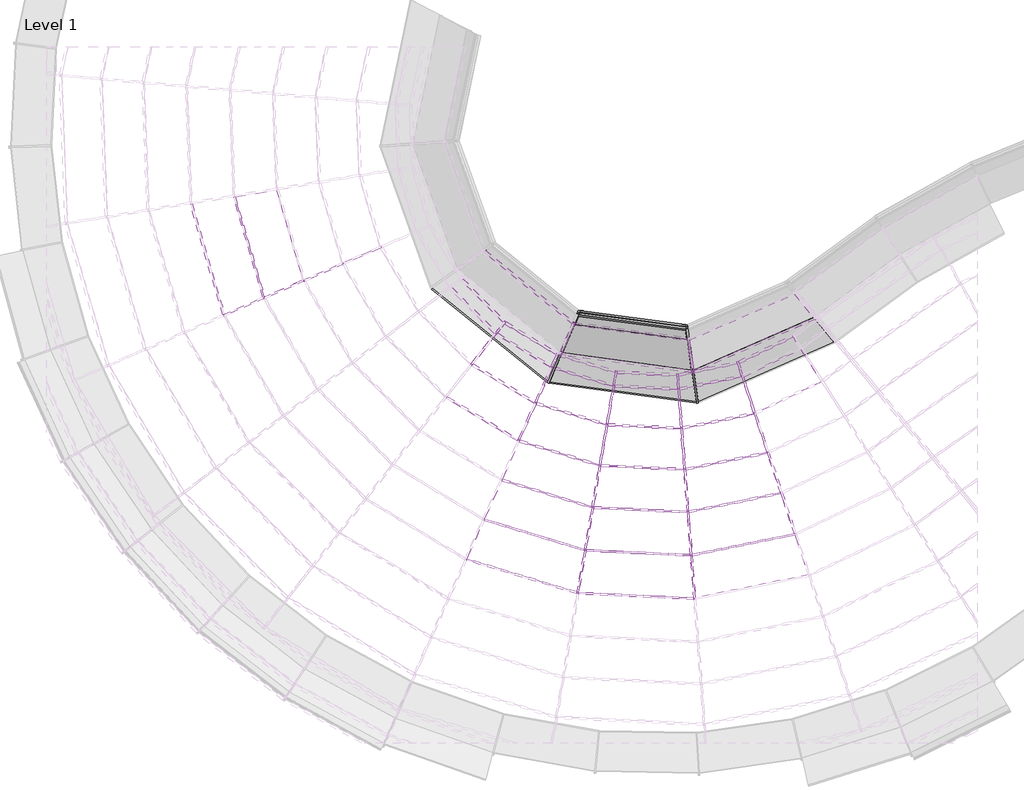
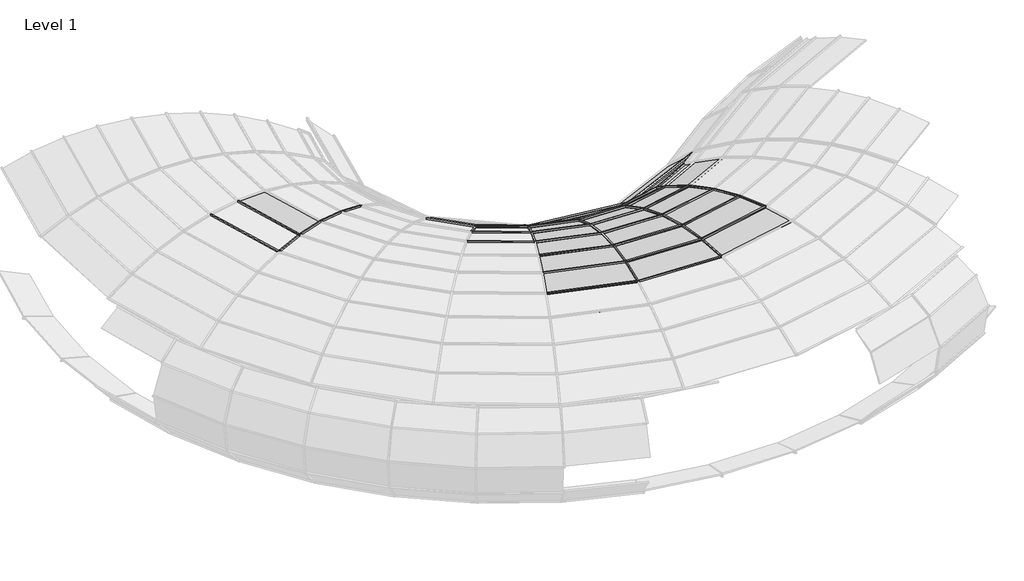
# One storey, part 5 of 23: 75 members, 29 plates.
"""IFC4 building model written with IfcOpenShell, lengths in millimetres."""

from ifc_helpers import new_model, si_unit, origin, place, context, project, spatial, transform, mapped, element, save
from components import member_c876edb5, member_782630c7, member_398e5ff5, member_01d9c279, member_398607d0, member_5ccaa950, member_8174f0e4, member_18f2ae55, member_299080b6, member_cb0bb3a9, member_172ab1ab, member_54499f2f, member_c8b9029b, member_0cd36c09, member_d0a40a1c, member_ff9adfd2, member_8c9da58c, member_391bee44, member_01ebdf2a, member_d6b8231b, system_panel_glazed_7bf4cd1b, system_panel_glazed_9f229a92, system_panel_glazed_a07c5774, system_panel_glazed_4fd85c75, system_panel_glazed_1256fb3b, system_panel_glazed_de823024, system_panel_glazed_b0e446d2, system_panel_glazed_ac948568, system_panel_glazed_688557e5, system_panel_glazed_4c871569, system_panel_glazed_08c7efc5

model = new_model("IFC4")

# Units and contexts
model_context = context("Model", 3, world=origin())
ifc_project = project(units=[si_unit("LENGTHUNIT", "METRE", prefix="MILLI")], contexts=[model_context])

# Site, building, storey
site = spatial("IfcSite", under=ifc_project)
building = spatial("IfcBuilding", under=site)
storey = spatial("IfcBuildingStorey", under=building, Name="Level 1", Elevation=0.0)

# Members
placement = place(None, origin())
member_shape = member_c876edb5(model_context)
element("IfcMember", 1, ObjectType="Rectangular Mullion : 1\" Square", at=placement, inside=storey, context=model_context, shape_type="MappedRepresentation", body=[
    mapped(member_shape, transform((-11868.8961869, -5711.7892801, 2676.0506073), x_axis=(0.49702183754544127, 0.8247218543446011, -0.2698205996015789), y_axis=(0.1392722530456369, 0.23109823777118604, 0.9629106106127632), z_axis=(0.8564884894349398, -0.516166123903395, 0.0))),
])
element("IfcMember", 2, ObjectType="Rectangular Mullion : 1\" Square", at=placement, inside=storey, context=model_context, shape_type="MappedRepresentation", body=[
    mapped(member_shape, transform((-10739.6248828, -6057.9710584, 2676.0506073), x_axis=(0.2797938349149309, 0.921364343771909, -0.2698205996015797), y_axis=(0.07840202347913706, 0.2581787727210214, 0.9629106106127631), z_axis=(0.9568534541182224, -0.2905709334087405, 0.0))),
])
element("IfcMember", 3, ObjectType="Rectangular Mullion : 1\" Square", at=placement, inside=storey, context=model_context, shape_type="MappedRepresentation", body=[
    mapped(member_shape, transform((-9559.9542553, -6116.9007844, 2676.0506073), x_axis=(0.04550783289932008, 0.961834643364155, -0.2698205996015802), y_axis=(0.012751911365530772, 0.2695190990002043, 0.9629106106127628), z_axis=(0.9988825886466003, -0.0472607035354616, 0.0))),
])
element("IfcMember", 4, ObjectType="Rectangular Mullion : 1\" Square", at=placement, inside=storey, context=model_context, shape_type="MappedRepresentation", body=[
    mapped(member_shape, transform((-8401.8044769, -5884.9857297, 2676.0506073), x_axis=(-0.19155261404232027, 0.9436654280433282, -0.26982059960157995), y_axis=(-0.053675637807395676, 0.26442783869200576, 0.962910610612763), z_axis=(0.9800135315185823, 0.19893083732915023, 0.0))),
])
member_2_shape = member_782630c7(model_context)
element("IfcMember", 5, ObjectType="Rectangular Mullion : 1\" Square", at=placement, inside=storey, context=model_context, shape_type="MappedRepresentation", body=[
    mapped(member_2_shape, transform((-11634.8412772, -5185.6927273, 2475.91846), x_axis=(0.4770391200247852, 0.7915639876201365, -0.3819163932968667), y_axis=(0.19713230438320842, 0.32710699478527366, 0.9241968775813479), z_axis=(0.8564884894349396, -0.5161661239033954, 0.0))),
])
element("IfcMember", 6, ObjectType="Rectangular Mullion : 1\" Square", at=placement, inside=storey, context=model_context, shape_type="MappedRepresentation", body=[
    mapped(member_2_shape, transform((-10641.6113447, -5490.5623609, 2475.91846), x_axis=(0.2685447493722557, 0.8843209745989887, -0.3819163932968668), y_axis=(0.11097380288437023, 0.36543802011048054, 0.9241968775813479), z_axis=(0.9568534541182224, -0.29057093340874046, 0.0))),
])
element("IfcMember", 7, ObjectType="Rectangular Mullion : 1\" Square", at=placement, inside=storey, context=model_context, shape_type="MappedRepresentation", body=[
    mapped(member_2_shape, transform((-9603.9576132, -5542.7727602, 2475.91846), x_axis=(0.043678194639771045, 0.9231641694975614, -0.3819163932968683), y_axis=(0.01804963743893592, 0.38148963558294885, 0.9241968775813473), z_axis=(0.9988825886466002, -0.04726070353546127, 0.0))),
])
element("IfcMember", 8, ObjectType="Rectangular Mullion : 1\" Square", at=placement, inside=storey, context=model_context, shape_type="MappedRepresentation", body=[
    mapped(member_2_shape, transform((-8585.1420081, -5339.1408495, 2475.91846), x_axis=(-0.183851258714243, 0.9057254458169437, -0.38191639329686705), y_axis=(-0.07597494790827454, 0.37428323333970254, 0.9241968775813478), z_axis=(0.9800135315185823, 0.19893083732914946, 0.0))),
])
member_3_shape = member_398e5ff5(model_context)
element("IfcMember", 9, ObjectType="Rectangular Mullion : 1\" Square", at=placement, inside=storey, context=model_context, shape_type="MappedRepresentation", body=[
    mapped(member_3_shape, transform((-12184.5228123, -4215.9945381, 2208.6526723), x_axis=(0.61966641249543, 0.6140952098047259, -0.4887746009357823), y_axis=(0.34717296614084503, 0.3440516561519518, 0.8724101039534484), z_axis=(0.7039065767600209, -0.710292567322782, 0.0))),
])
element("IfcMember", 10, ObjectType="Rectangular Mullion : 1\" Square", at=placement, inside=storey, context=model_context, shape_type="MappedRepresentation", body=[
    mapped(member_3_shape, transform((-11412.1368379, -4685.1091764, 2208.6526723), x_axis=(0.4503085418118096, 0.7472092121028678, -0.48877460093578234), y_axis=(0.2522888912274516, 0.4186298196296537, 0.8724101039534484), z_axis=(0.8564884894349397, -0.5161661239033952, 0.0))),
])
element("IfcMember", 11, ObjectType="Rectangular Mullion : 1\" Square", at=placement, inside=storey, context=model_context, shape_type="MappedRepresentation", body=[
    mapped(member_3_shape, transform((-10548.3509638, -4950.6700938, 2208.6526723), x_axis=(0.25349701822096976, 0.8347686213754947, -0.4887746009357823), y_axis=(0.1420236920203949, 0.46768566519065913, 0.8724101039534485), z_axis=(0.9568534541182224, -0.2905709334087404, 0.0))),
])
element("IfcMember", 12, ObjectType="Rectangular Mullion : 1\" Square", at=placement, inside=storey, context=model_context, shape_type="MappedRepresentation", body=[
    mapped(member_3_shape, transform((-9645.8270325, -4996.4870195, 2208.6526723), x_axis=(0.04123071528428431, 0.8714352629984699, -0.48877460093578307), y_axis=(0.02309983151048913, 0.4882284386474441, 0.8724101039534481), z_axis=(0.9988825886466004, -0.04726070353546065, 0.0))),
])
element("IfcMember", 13, ObjectType="Rectangular Mullion : 1\" Square", at=placement, inside=storey, context=model_context, shape_type="MappedRepresentation", body=[
    mapped(member_3_shape, transform((-8759.5886034, -4819.7666644, 2208.6526723), x_axis=(-0.17354927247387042, 0.8549737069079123, -0.4887746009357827), y_axis=(-0.09723234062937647, 0.4790057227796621, 0.8724101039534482), z_axis=(0.9800135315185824, 0.1989308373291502, 0.0))),
])
member_4_shape = member_01d9c279(model_context)
element("IfcMember", 14, ObjectType="Rectangular Mullion : 1\" Square", at=placement, inside=storey, context=model_context, shape_type="MappedRepresentation", body=[
    mapped(member_4_shape, transform((-15967.8780384, -3961.1088587, 2850.17796), x_axis=(0.9561921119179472, 0.2809637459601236, 0.08219500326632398), y_axis=(-0.07886105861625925, -0.023172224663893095, 0.9966162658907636), z_axis=(0.2819176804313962, -0.9594385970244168, 0.0))),
])
element("IfcMember", 15, ObjectType="Rectangular Mullion : 1\" Square", at=placement, inside=storey, context=model_context, shape_type="MappedRepresentation", body=[
    mapped(member_4_shape, transform((-11048.0223247, -7843.3100458, 2850.17796), x_axis=(0.28958771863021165, 0.9536157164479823, 0.082195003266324), y_axis=(-0.02388347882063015, -0.07864857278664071, 0.9966162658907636), z_axis=(0.9568534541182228, -0.29057093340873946, 0.0))),
])
element("IfcMember", 16, ObjectType="Rectangular Mullion : 1\" Square", at=placement, inside=storey, context=model_context, shape_type="MappedRepresentation", body=[
    mapped(member_4_shape, transform((-9421.4986575, -7923.3819854, 2850.17796), x_axis=(0.04710078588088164, 0.9955026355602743, 0.08219500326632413), y_axis=(-0.003884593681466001, -0.08210315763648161, 0.9966162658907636), z_axis=(0.9988825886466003, -0.04726070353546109, 0.0))),
])
member_5_shape = member_398607d0(model_context)
element("IfcMember", 17, ObjectType="Rectangular Mullion : 1\" Square", at=placement, inside=storey, context=model_context, shape_type="MappedRepresentation", body=[
    mapped(member_5_shape, transform((-15408.8503011, -3718.427119, 2864.5209769), x_axis=(0.9588108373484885, 0.2817332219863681, -0.03616863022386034), y_axis=(0.03470157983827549, 0.010196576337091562, 0.9993457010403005), z_axis=(0.28191768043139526, -0.9594385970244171, 0.0))),
])
element("IfcMember", 18, ObjectType="Rectangular Mullion : 1\" Square", at=placement, inside=storey, context=model_context, shape_type="MappedRepresentation", body=[
    mapped(member_5_shape, transform((-10944.2861608, -7242.7725814, 2864.5209769), x_axis=(0.2903808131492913, 0.9562273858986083, -0.03616863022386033), y_axis=(0.010509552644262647, 0.03460807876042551, 0.9993457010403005), z_axis=(0.9568534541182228, -0.2905709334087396, 0.0))),
])
element("IfcMember", 19, ObjectType="Rectangular Mullion : 1\" Square", at=placement, inside=storey, context=model_context, shape_type="MappedRepresentation", body=[
    mapped(member_5_shape, transform((-9468.0711987, -7315.7328792, 2864.5209769), x_axis=(0.04722978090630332, 0.9982290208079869, -0.0361686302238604), y_axis=(0.0017093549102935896, 0.03612821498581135, 0.9993457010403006), z_axis=(0.9988825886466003, -0.04726070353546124, 0.0))),
])
element("IfcMember", 20, ObjectType="Rectangular Mullion : 1\" Square", at=placement, inside=storey, context=model_context, shape_type="MappedRepresentation", body=[
    mapped(member_5_shape, transform((-8018.9788571, -7024.7600198, 2864.5209769), x_axis=(-0.19880067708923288, 0.9793723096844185, -0.03616863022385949), y_axis=(-0.00719505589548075, 0.03544574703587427, 0.9993457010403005), z_axis=(0.9800135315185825, 0.1989308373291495, 0.0))),
])
member_6_shape = member_5ccaa950(model_context)
element("IfcMember", 21, ObjectType="Rectangular Mullion : 1\" Square", at=placement, inside=storey, context=model_context, shape_type="MappedRepresentation", body=[
    mapped(member_6_shape, transform((-10840.9972064, -6644.8240506, 2806.2019711), x_axis=(0.2871027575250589, 0.9454327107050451, -0.15404218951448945), y_axis=(0.04476018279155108, 0.14739580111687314, 0.9880642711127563), z_axis=(0.956853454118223, -0.2905709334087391, 0.0))),
])
element("IfcMember", 22, ObjectType="Rectangular Mullion : 1\" Square", at=placement, inside=storey, context=model_context, shape_type="MappedRepresentation", body=[
    mapped(member_6_shape, transform((-9514.4429645, -6710.7033651, 2806.2019711), x_axis=(0.046696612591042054, 0.986960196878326, -0.15404218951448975), y_axis=(0.007280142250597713, 0.15387006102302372, 0.9880642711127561), z_axis=(0.9988825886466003, -0.04726070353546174, 0.0))),
])
element("IfcMember", 23, ObjectType="Rectangular Mullion : 1\" Square", at=placement, inside=storey, context=model_context, shape_type="MappedRepresentation", body=[
    mapped(member_6_shape, transform((-8212.1842273, -6449.5359431, 2806.2019711), x_axis=(-0.19655645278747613, 0.9683163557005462, -0.1540421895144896), y_axis=(-0.03064374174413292, 0.15096343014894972, 0.9880642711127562), z_axis=(0.9800135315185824, 0.19893083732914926, 0.0))),
])
member_7_shape = member_8174f0e4(model_context)
element("IfcMember", 24, ObjectType="Rectangular Mullion : 1\" Square", at=placement, inside=storey, context=model_context, shape_type="MappedRepresentation", body=[
    mapped(member_7_shape, transform((-12056.8239607, -4053.5262386, 2085.6089632), x_axis=(0.6090655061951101, 0.60358961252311, -0.5145082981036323), y_axis=(0.3654514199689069, 0.3621657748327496, 0.8574853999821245), z_axis=(0.7039065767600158, -0.7102925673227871, 0.0))),
])
element("IfcMember", 25, ObjectType="Rectangular Mullion : 1\" Square", at=placement, inside=storey, context=model_context, shape_type="MappedRepresentation", body=[
    mapped(member_7_shape, transform((-11328.1393936, -4496.3040537, 2085.6089632), x_axis=(0.4426049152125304, 0.7344263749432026, -0.5145082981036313), y_axis=(0.2655717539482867, 0.44067043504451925, 0.857485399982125), z_axis=(0.8564884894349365, -0.5161661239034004, 0.0))),
])
element("IfcMember", 26, ObjectType="Rectangular Mullion : 1\" Square", at=placement, inside=storey, context=model_context, shape_type="MappedRepresentation", body=[
    mapped(member_7_shape, transform((-10513.1759413, -4747.0389008, 2085.6089632), x_axis=(0.24916033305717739, 0.8204878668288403, -0.5145082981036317), y_axis=(0.14950115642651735, 0.4923090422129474, 0.8574853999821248), z_axis=(0.9568534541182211, -0.29057093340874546, 0.0))),
])
element("IfcMember", 27, ObjectType="Rectangular Mullion : 1\" Square", at=placement, inside=storey, context=model_context, shape_type="MappedRepresentation", body=[
    mapped(member_7_shape, transform((-9661.6189235, -4790.4443997, 2085.6089632), x_axis=(0.04052536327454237, 0.8565272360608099, -0.5145082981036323), y_axis=(0.02431602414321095, 0.5139333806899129, 0.8574853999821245), z_axis=(0.9988825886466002, -0.04726070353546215, 0.0))),
])
element("IfcMember", 28, ObjectType="Rectangular Mullion : 1\" Square", at=placement, inside=storey, context=model_context, shape_type="MappedRepresentation", body=[
    mapped(member_7_shape, transform((-8825.3846343, -4623.8742773, 2085.6089632), x_axis=(-0.17058028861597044, 0.840347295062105, -0.5145082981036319), y_axis=(-0.10235156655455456, 0.5042250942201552, 0.8574853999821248), z_axis=(0.9800135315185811, 0.19893083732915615, 0.0))),
])
element("IfcMember", 29, ObjectType="Rectangular Mullion : 1\" Square", at=placement, inside=storey, context=model_context, shape_type="MappedRepresentation", body=[
    mapped(member_7_shape, transform((-8055.455198, -4257.4837002, 2085.6089632), x_axis=(-0.37128628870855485, 0.7729344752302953, -0.5145082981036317), y_axis=(-0.22277915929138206, 0.4637760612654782, 0.8574853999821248), z_axis=(0.9013966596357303, 0.43299429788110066, 0.0))),
])
member_8_shape = member_18f2ae55(model_context)
element("IfcMember", 30, ObjectType="Rectangular Mullion : 1\" Square", at=placement, inside=storey, context=model_context, shape_type="MappedRepresentation", body=[
    mapped(member_8_shape, transform((-11104.0034032, -4080.1893958, 1696.6281859), x_axis=(0.3603585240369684, 0.4453942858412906, -0.819613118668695), y_axis=(0.5155273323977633, 0.6371791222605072, 0.5729173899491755), z_axis=(0.7774144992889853, -0.6289886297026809, 0.0))),
])
element("IfcMember", 31, ObjectType="Rectangular Mullion : 1\" Square", at=placement, inside=storey, context=model_context, shape_type="MappedRepresentation", body=[
    mapped(member_8_shape, transform((-9508.3591434, -4300.8006749, 1696.6281859), x_axis=(0.07613648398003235, 0.567835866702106, -0.8196131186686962), y_axis=(0.10892052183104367, 0.8123435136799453, 0.5729173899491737), z_axis=(0.9911304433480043, -0.13289260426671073, 0.0))),
])
member_9_shape = member_299080b6(model_context)
element("IfcMember", 32, ObjectType="Rectangular Mullion : 1\" Square", at=placement, inside=storey, context=model_context, shape_type="MappedRepresentation", body=[
    mapped(member_9_shape, transform((-9534.3913665, -4116.3335679, 1116.1918244), x_axis=(0.003636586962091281, 0.027122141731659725, -0.9996255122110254), y_axis=(0.13284283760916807, 0.9907592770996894, 0.027364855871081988), z_axis=(0.9911304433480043, -0.13289260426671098, 0.0))),
])
member_10_shape = member_cb0bb3a9(model_context)
element("IfcMember", 33, ObjectType="Rectangular Mullion : 1\" Square", at=placement, inside=storey, context=model_context, shape_type="MappedRepresentation", body=[
    mapped(member_10_shape, transform((-11269.0502454, -4463.3104717, 113.4427618), x_axis=(-0.5666265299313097, -0.7003364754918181, -0.434123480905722), y_axis=(0.2730587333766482, 0.33749388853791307, -0.900853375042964), z_axis=(0.7774144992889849, -0.6289886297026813, 0.0))),
])
element("IfcMember", 34, ObjectType="Rectangular Mullion : 1\" Square", at=placement, inside=storey, context=model_context, shape_type="MappedRepresentation", body=[
    mapped(member_10_shape, transform((-9450.0666489, -4713.8675024, 113.4427618), x_axis=(-0.11971675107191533, -0.8928632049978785, -0.4341234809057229), y_axis=(0.0576917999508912, 0.430272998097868, -0.9008533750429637), z_axis=(0.9911304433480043, -0.13289260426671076, 0.0))),
])
member_11_shape = member_172ab1ab(model_context)
element("IfcMember", 35, ObjectType="Rectangular Mullion : 1\" Square", at=placement, inside=storey, context=model_context, shape_type="MappedRepresentation", body=[
    mapped(member_11_shape, transform((-11460.3758657, -4907.4321315, 0.0), x_axis=(-0.6111115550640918, -0.755318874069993, -0.23671938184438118), y_axis=(0.1488937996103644, 0.1840290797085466, -0.9715780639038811), z_axis=(0.7774144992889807, -0.6289886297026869, 0.0))),
])
element("IfcMember", 36, ObjectType="Rectangular Mullion : 1\" Square", at=placement, inside=storey, context=model_context, shape_type="MappedRepresentation", body=[
    mapped(member_11_shape, transform((-9382.4928164, -5192.7028801, 0.0), x_axis=(-0.12911553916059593, -0.9629605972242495, -0.23671938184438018), y_axis=(0.031458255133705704, 0.23461978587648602, -0.9715780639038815), z_axis=(0.9911304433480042, -0.13289260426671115, 0.0))),
])
member_12_shape = member_54499f2f(model_context)
element("IfcMember", 37, ObjectType="Rectangular Mullion : 1\" Square", at=placement, inside=storey, context=model_context, shape_type="MappedRepresentation", body=[
    mapped(member_12_shape, transform((-11091.7500818, -4051.7459212, 526.7119632), x_axis=(-0.33222389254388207, -0.41062057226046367, -0.849127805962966), y_axis=(0.53409173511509, 0.6601242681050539, -0.5281874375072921), z_axis=(0.7774144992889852, -0.6289886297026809, 0.0))),
])
element("IfcMember", 38, ObjectType="Rectangular Mullion : 1\" Square", at=placement, inside=storey, context=model_context, shape_type="MappedRepresentation", body=[
    mapped(member_12_shape, transform((-9512.6868643, -4270.1339835, 526.7119632), x_axis=(-0.07019220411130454, -0.5235026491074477, -0.8491278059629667), y_axis=(0.11284280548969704, 0.8415964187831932, -0.5281874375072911), z_axis=(0.9911304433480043, -0.13289260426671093, 0.0))),
])
member_13_shape = member_c8b9029b(model_context)
element("IfcMember", 39, ObjectType="Rectangular Mullion : 1\" Square", at=placement, inside=storey, context=model_context, shape_type="MappedRepresentation", body=[
    mapped(member_13_shape, transform((-11267.2455509, -4520.9344627, 2085.6089632), x_axis=(-0.10072129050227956, -0.7511925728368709, 0.652353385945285), y_axis=(0.08669294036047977, 0.6465673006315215, 0.7579149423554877), z_axis=(-0.9911304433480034, 0.13289260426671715, 0.0))),
])
element("IfcMember", 40, ObjectType="Rectangular Mullion : 1\" Square", at=placement, inside=storey, context=model_context, shape_type="MappedRepresentation", body=[
    mapped(member_13_shape, transform((-9418.5551734, -4762.1459467, 2085.6089632), x_axis=(0.3046663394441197, -0.6939837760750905, 0.6523533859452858), y_axis=(-0.26223274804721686, 0.5973264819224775, 0.7579149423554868), z_axis=(-0.9156486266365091, -0.40197959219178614, 0.0))),
])
member_14_shape = member_0cd36c09(model_context)
element("IfcMember", 41, ObjectType="Rectangular Mullion : 1\" Square", at=placement, inside=storey, context=model_context, shape_type="MappedRepresentation", body=[
    mapped(member_14_shape, transform((-9408.8128486, -7923.9821963, 2850.17796), x_axis=(0.9970757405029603, 0.07641968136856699, 0.0), y_axis=(0.001798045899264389, -0.02345976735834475, 0.9997231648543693), z_axis=(0.07639852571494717, -0.9967997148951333, -0.023528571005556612))),
])
element("IfcMember", 42, ObjectType="Rectangular Mullion : 1\" Square", at=placement, inside=storey, context=model_context, shape_type="MappedRepresentation", body=[
    mapped(member_14_shape, transform((-14848.6521933, -3488.9764572, 2806.2019711), x_axis=(0.39821020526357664, -0.9172941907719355, 0.0), y_axis=(0.1958449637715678, 0.08501903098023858, 0.9769424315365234), z_axis=(-0.8961436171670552, -0.389028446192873, 0.21350289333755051))),
])
element("IfcMember", 43, ObjectType="Rectangular Mullion : 1\" Square", at=placement, inside=storey, context=model_context, shape_type="MappedRepresentation", body=[
    mapped(member_14_shape, transform((-14302.3630442, -3251.8247164, 2676.0506073), x_axis=(0.3982102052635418, -0.9172941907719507, 0.0), y_axis=(0.3011483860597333, 0.13073271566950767, 0.9445732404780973), z_axis=(-0.8664515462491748, -0.3761387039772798, 0.328300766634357))),
])
element("IfcMember", 44, ObjectType="Rectangular Mullion : 1\" Square", at=placement, inside=storey, context=model_context, shape_type="MappedRepresentation", body=[
    mapped(member_14_shape, transform((-11858.0187831, -5718.3445899, 2676.0506073), x_axis=(0.9136605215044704, -0.40647810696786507, 0.0), y_axis=(0.13344707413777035, 0.29995544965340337, 0.9445732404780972), z_axis=(-0.383948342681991, -0.8630192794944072, 0.32830076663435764))),
])
element("IfcMember", 45, ObjectType="Rectangular Mullion : 1\" Square", at=placement, inside=storey, context=model_context, shape_type="MappedRepresentation", body=[
    mapped(member_14_shape, transform((-10828.8451676, -6648.5143015, 2806.2019711), x_axis=(0.985406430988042, -0.1702179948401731, 0.0), y_axis=(0.036342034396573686, 0.21038712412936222, 0.9769424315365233), z_axis=(-0.16629318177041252, -0.9626853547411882, 0.21350289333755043))),
])
element("IfcMember", 46, ObjectType="Rectangular Mullion : 1\" Square", at=placement, inside=storey, context=model_context, shape_type="MappedRepresentation", body=[
    mapped(member_14_shape, transform((-10727.472844, -6061.6613092, 2676.0506073), x_axis=(0.9854064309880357, -0.1702179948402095, 0.0), y_axis=(0.05588269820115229, 0.3235096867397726, 0.9445732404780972), z_axis=(-0.16078336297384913, -0.9307885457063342, 0.3283007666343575))),
])
element("IfcMember", 47, ObjectType="Rectangular Mullion : 1\" Square", at=placement, inside=storey, context=model_context, shape_type="MappedRepresentation", body=[
    mapped(member_14_shape, transform((-9455.3853899, -7316.3330901, 2864.5209769), x_axis=(0.9970757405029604, 0.0764196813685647, 0.0), y_axis=(-0.007310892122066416, 0.09538790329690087, 0.9954133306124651), z_axis=(0.07606916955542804, -0.9925024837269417, 0.0956676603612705))),
])
element("IfcMember", 48, ObjectType="Rectangular Mullion : 1\" Square", at=placement, inside=storey, context=model_context, shape_type="MappedRepresentation", body=[
    mapped(member_14_shape, transform((-9501.7571556, -6711.303576, 2806.2019711), x_axis=(0.9970757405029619, 0.07641968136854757, 0.0), y_axis=(-0.016315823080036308, 0.2128785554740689, 0.9769424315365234), z_axis=(0.0746576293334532, -0.9740855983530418, 0.21350289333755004))),
])
element("IfcMember", 49, ObjectType="Rectangular Mullion : 1\" Square", at=placement, inside=storey, context=model_context, shape_type="MappedRepresentation", body=[
    mapped(member_14_shape, transform((-9547.2684465, -6117.5009953, 2676.0506073), x_axis=(0.9970757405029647, 0.07641968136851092, 0.0), y_axis=(-0.02508863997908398, 0.32734072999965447, 0.9445732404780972), z_axis=(0.07218398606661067, -0.9418110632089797, 0.32830076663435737))),
])
element("IfcMember", 50, ObjectType="Rectangular Mullion : 1\" Square", at=placement, inside=storey, context=model_context, shape_type="MappedRepresentation", body=[
    mapped(member_14_shape, transform((-8006.5326853, -7022.2335982, 2864.5209769), x_axis=(0.9479570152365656, 0.3183983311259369, 0.0), y_axis=(-0.0304604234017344, 0.09068882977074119, 0.9954133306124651), z_axis=(0.31693794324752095, -0.9436090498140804, 0.09566766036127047))),
])
element("IfcMember", 51, ObjectType="Rectangular Mullion : 1\" Square", at=placement, inside=storey, context=model_context, shape_type="MappedRepresentation", body=[
    mapped(member_14_shape, transform((-8199.7380555, -6447.0095214, 2806.2019711), x_axis=(0.9479570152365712, 0.3183983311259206, 0.0), y_axis=(-0.06797896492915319, 0.20239156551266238, 0.9769424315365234), z_axis=(0.311056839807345, -0.9260994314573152, 0.21350289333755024))),
])
element("IfcMember", 52, ObjectType="Rectangular Mullion : 1\" Square", at=placement, inside=storey, context=model_context, shape_type="MappedRepresentation", body=[
    mapped(member_14_shape, transform((-8389.358305, -5882.459308, 2676.0506073), x_axis=(0.9479570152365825, 0.3183983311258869, 0.0), y_axis=(-0.10453041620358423, 0.3112150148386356, 0.9445732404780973), z_axis=(0.30075054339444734, -0.8954148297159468, 0.32830076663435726))),
])
member_15_shape = member_d0a40a1c(model_context)
element("IfcMember", 53, ObjectType="Rectangular Mullion : 1\" Square", at=placement, inside=storey, context=model_context, shape_type="MappedRepresentation", body=[
    mapped(member_15_shape, transform((-12514.1542272, -4655.7713534, 2475.91846), x_axis=(0.786212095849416, -0.6179567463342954, 0.0), y_axis=(0.27092962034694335, 0.3446974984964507, 0.8987662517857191), z_axis=(-0.5553986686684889, -0.7066208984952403, 0.43842812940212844))),
])
element("IfcMember", 54, ObjectType="Rectangular Mullion : 1\" Square", at=placement, inside=storey, context=model_context, shape_type="MappedRepresentation", body=[
    mapped(member_15_shape, transform((-11623.9638734, -5192.2480371, 2475.91846), x_axis=(0.9136605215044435, -0.4064781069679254, 0.0), y_axis=(0.17821143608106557, 0.40057447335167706, 0.8987662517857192), z_axis=(-0.3653288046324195, -0.8211672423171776, 0.43842812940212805))),
])
element("IfcMember", 55, ObjectType="Rectangular Mullion : 1\" Square", at=placement, inside=storey, context=model_context, shape_type="MappedRepresentation", body=[
    mapped(member_15_shape, transform((-10629.4593059, -5494.2526118, 2475.91846), x_axis=(0.9854064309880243, -0.1702179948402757, 0.0), y_axis=(0.07462835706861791, 0.43202989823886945, 0.8987662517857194), z_axis=(-0.15298618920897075, -0.8856500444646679, 0.4384281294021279))),
])
element("IfcMember", 56, ObjectType="Rectangular Mullion : 1\" Square", at=placement, inside=storey, context=model_context, shape_type="MappedRepresentation", body=[
    mapped(member_15_shape, transform((-9591.2718044, -5543.3729712, 2475.91846), x_axis=(0.9970757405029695, 0.07641968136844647, 0.0), y_axis=(-0.03350453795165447, 0.43714605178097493, 0.8987662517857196), z_axis=(0.068683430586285, -0.8961380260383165, 0.43842812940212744))),
])
element("IfcMember", 57, ObjectType="Rectangular Mullion : 1\" Square", at=placement, inside=storey, context=model_context, shape_type="MappedRepresentation", body=[
    mapped(member_15_shape, transform((-8572.6958363, -5336.6144278, 2475.91846), x_axis=(0.9479570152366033, 0.3183983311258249, 0.0), y_axis=(-0.1395947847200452, 0.41561102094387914, 0.8987662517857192), z_axis=(0.28616567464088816, -0.8519917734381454, 0.43842812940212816))),
])
member_16_shape = member_ff9adfd2(model_context)
element("IfcMember", 58, ObjectType="Rectangular Mullion : 1\" Square", at=placement, inside=storey, context=model_context, shape_type="MappedRepresentation", body=[
    mapped(member_16_shape, transform((-12175.5831987, -4225.0152537, 2208.6526723), x_axis=(0.786212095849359, -0.6179567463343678, 0.0), y_axis=(0.31615002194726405, 0.4022303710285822, 0.8592205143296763), z_axis=(-0.5309611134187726, -0.6755295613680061, 0.5116054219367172))),
])
element("IfcMember", 59, ObjectType="Rectangular Mullion : 1\" Square", at=placement, inside=storey, context=model_context, shape_type="MappedRepresentation", body=[
    mapped(member_16_shape, transform((-11401.2594341, -4691.6644862, 2208.6526723), x_axis=(0.9136605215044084, -0.4064781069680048, 0.0), y_axis=(0.20795640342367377, 0.46743367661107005, 0.8592205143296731), z_axis=(-0.34925432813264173, -0.7850358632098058, 0.5116054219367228))),
])
element("IfcMember", 60, ObjectType="Rectangular Mullion : 1\" Square", at=placement, inside=storey, context=model_context, shape_type="MappedRepresentation", body=[
    mapped(member_16_shape, transform((-10536.1989249, -4954.3603447, 2208.6526723), x_axis=(0.9854064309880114, -0.17021799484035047, 0.0), y_axis=(0.08708444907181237, 0.5041392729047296, 0.8592205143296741), z_axis=(-0.1462547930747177, -0.8466814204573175, 0.5116054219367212))),
])
element("IfcMember", 61, ObjectType="Rectangular Mullion : 1\" Square", at=placement, inside=storey, context=model_context, shape_type="MappedRepresentation", body=[
    mapped(member_16_shape, transform((-9633.1412237, -4997.0872305, 2208.6526723), x_axis=(0.997075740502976, 0.0764196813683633, 0.0), y_axis=(-0.039096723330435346, 0.5101093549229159, 0.8592205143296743), z_axis=(0.06566135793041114, -0.8567079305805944, 0.5116054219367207))),
])
element("IfcMember", 62, ObjectType="Rectangular Mullion : 1\" Square", at=placement, inside=storey, context=model_context, shape_type="MappedRepresentation", body=[
    mapped(member_16_shape, transform((-8747.1424315, -4817.2402427, 2208.6526723), x_axis=(0.9479570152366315, 0.3183983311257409, 0.0), y_axis=(-0.16289431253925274, 0.4849799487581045, 0.8592205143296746), z_axis=(0.2735743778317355, -0.8145041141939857, 0.5116054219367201))),
])
element("IfcMember", 63, ObjectType="Rectangular Mullion : 1\" Square", at=placement, inside=storey, context=model_context, shape_type="MappedRepresentation", body=[
    mapped(member_14_shape, transform((-15964.2976838, -3973.2937289, 2850.17796), x_axis=(0.3982102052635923, -0.9172941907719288, 0.0), y_axis=(-0.021582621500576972, -0.009369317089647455, 0.9997231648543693), z_axis=(-0.9170402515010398, -0.3980999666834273, -0.023528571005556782))),
])
element("IfcMember", 64, ObjectType="Rectangular Mullion : 1\" Square", at=placement, inside=storey, context=model_context, shape_type="MappedRepresentation", body=[
    mapped(member_14_shape, transform((-11035.8702859, -7847.0002967, 2850.17796), x_axis=(0.9854064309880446, -0.17021799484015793, 0.0), y_axis=(-0.0040049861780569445, -0.023185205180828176, 0.9997231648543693), z_axis=(-0.17017087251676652, -0.9851336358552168, -0.023528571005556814))),
])
element("IfcMember", 65, ObjectType="Rectangular Mullion : 1\" Square", at=placement, inside=storey, context=model_context, shape_type="MappedRepresentation", body=[
    mapped(member_14_shape, transform((-15405.2699465, -3730.6119892, 2864.5209769), x_axis=(0.3982102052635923, -0.9172941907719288, 0.0), y_axis=(0.0877553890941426, 0.0380958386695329, 0.9954133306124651), z_axis=(-0.9130868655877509, -0.39638374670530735, 0.09566766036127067))),
])
element("IfcMember", 66, ObjectType="Rectangular Mullion : 1\" Square", at=placement, inside=storey, context=model_context, shape_type="MappedRepresentation", body=[
    mapped(member_14_shape, transform((-10932.134122, -7246.4628323, 2864.5209769), x_axis=(0.9854064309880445, -0.1702179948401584, 0.0), y_axis=(0.016284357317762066, 0.09427152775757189, 0.9954133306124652), z_axis=(-0.1694372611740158, -0.980886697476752, 0.09566766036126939))),
])
member_17_shape = member_8c9da58c(model_context)
element("IfcMember", 67, ObjectType="Rectangular Mullion : 1\" Square", at=placement, inside=storey, context=model_context, shape_type="MappedRepresentation", body=[
    mapped(member_17_shape, transform((-11094.1302391, -4088.1775514, 1696.6281859), x_axis=(0.9184038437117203, -0.39564425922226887, 0.0), y_axis=(0.37671639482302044, 0.8744668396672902, 0.30560187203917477), z_axis=(-0.12090962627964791, -0.2806659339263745, 0.9521593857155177))),
])
element("IfcMember", 68, ObjectType="Rectangular Mullion : 1\" Square", at=placement, inside=storey, context=model_context, shape_type="MappedRepresentation", body=[
    mapped(member_17_shape, transform((-9495.7717867, -4302.488411, 1696.6281859), x_axis=(0.9901887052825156, 0.13973663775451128, 0.0), y_axis=(-0.1330515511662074, 0.9428174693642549, 0.3056018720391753), z_axis=(0.04270377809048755, -0.3026035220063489, 0.9521593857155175))),
])
element("IfcMember", 69, ObjectType="Rectangular Mullion : 1\" Square", at=placement, inside=storey, context=model_context, shape_type="MappedRepresentation", body=[
    mapped(member_17_shape, transform((-9521.8040098, -4118.021304, 1116.1918244), x_axis=(0.9901887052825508, 0.13973663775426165, 0.0), y_axis=(-0.13512456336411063, 0.957507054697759, -0.25479715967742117), z_axis=(-0.035604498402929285, 0.2522972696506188, 0.966994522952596))),
])
member_18_shape = member_391bee44(model_context)
element("IfcMember", 70, ObjectType="Rectangular Mullion : 1\" Square", at=placement, inside=storey, context=model_context, shape_type="MappedRepresentation", body=[
    mapped(member_18_shape, transform((-11081.8769177, -4059.7340768, 526.7119632), x_axis=(0.9184038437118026, -0.39564425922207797, 0.0), y_axis=(0.2682211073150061, 0.6226181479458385, -0.7351218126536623), z_axis=(0.2908467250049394, 0.6751386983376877, 0.6779350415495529))),
])
element("IfcMember", 71, ObjectType="Rectangular Mullion : 1\" Square", at=placement, inside=storey, context=model_context, shape_type="MappedRepresentation", body=[
    mapped(member_18_shape, transform((-9500.0995076, -4271.8217196, 526.7119632), x_axis=(0.9901887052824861, 0.13973663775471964, 0.0), y_axis=(-0.09473236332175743, 0.6712836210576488, -0.7351218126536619), z_axis=(-0.10272345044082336, 0.727909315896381, 0.6779350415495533))),
])
member_19_shape = member_01ebdf2a(model_context)
element("IfcMember", 72, ObjectType="Rectangular Mullion : 1\" Square", at=placement, inside=storey, context=model_context, shape_type="MappedRepresentation", body=[
    mapped(member_19_shape, transform((-11259.1770813, -4471.2986273, 113.4427618), x_axis=(0.9184038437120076, -0.39564425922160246, 0.0), y_axis=(0.09036089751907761, 0.20975356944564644, -0.9735698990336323), z_axis=(0.38518734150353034, 0.8941303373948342, 0.22838925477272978))),
])
element("IfcMember", 73, ObjectType="Rectangular Mullion : 1\" Square", at=placement, inside=storey, context=model_context, shape_type="MappedRepresentation", body=[
    mapped(member_19_shape, transform((-9437.4792922, -4715.5552385, 113.4427618), x_axis=(0.9901887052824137, 0.13973663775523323, 0.0), y_axis=(-0.03191434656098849, 0.22614846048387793, -0.9735698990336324), z_axis=(-0.13604338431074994, 0.9640179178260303, 0.22838925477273))),
])
member_20_shape = member_d6b8231b(model_context)
element("IfcMember", 74, ObjectType="Rectangular Mullion : 1\" Square", at=placement, inside=storey, context=model_context, shape_type="MappedRepresentation", body=[
    mapped(member_20_shape, transform((-9430.183911, -4767.2510875, 2085.6089632), x_axis=(0.9901887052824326, 0.13973663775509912, 0.0), y_axis=(-0.08916480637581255, 0.6318313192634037, 0.7699602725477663), z_axis=(0.10759165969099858, -0.7624059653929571, 0.6380918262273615))),
])
element("IfcMember", 75, ObjectType="Rectangular Mullion : 1\" Square", at=placement, inside=storey, context=model_context, shape_type="MappedRepresentation", body=[
    mapped(member_20_shape, transform((-11279.8329075, -4519.2467266, 2085.6089632), x_axis=(0.9184038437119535, -0.39564425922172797, 0.0), y_axis=(0.25245736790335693, 0.5860259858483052, 0.7699602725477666), z_axis=(-0.3046303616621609, -0.7071344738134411, 0.6380918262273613))),
])

# Plates
system_panel_glazed_shape = system_panel_glazed_7bf4cd1b(model_context)
element("IfcPlate", 76, ObjectType="System Panel : Glazed", at=placement, inside=storey, context=model_context, shape_type="MappedRepresentation", body=[
    mapped(system_panel_glazed_shape, transform((-11811.4796339, -7598.199437, 2850.4790751), x_axis=(0.956853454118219, -0.290570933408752, 0.0), y_axis=(0.006889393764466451, 0.02268685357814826, -0.999718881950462), z_axis=(0.2904892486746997, 0.9565844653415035, 0.02370985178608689))),
])
element("IfcPlate", 77, ObjectType="System Panel : Glazed", at=placement, inside=storey, context=model_context, shape_type="MappedRepresentation", body=[
    mapped(system_panel_glazed_shape, transform((-10221.741525, -7872.8090038, 2850.4790751), x_axis=(0.9988825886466, -0.04726070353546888, 0.0), y_axis=(0.0011205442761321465, 0.023683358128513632, -0.9997188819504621), z_axis=(0.0472474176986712, 0.9986017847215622, 0.023709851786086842))),
])
element("IfcPlate", 78, ObjectType="System Panel : Glazed", at=placement, inside=storey, context=model_context, shape_type="MappedRepresentation", body=[
    mapped(system_panel_glazed_shape, transform((-8613.1775333, -7749.5225345, 2850.4790751), x_axis=(0.9800135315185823, 0.19893083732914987, 0.0), y_axis=(-0.004716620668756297, 0.023235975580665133, -0.9997188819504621), z_axis=(-0.19887491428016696, 0.979738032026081, 0.023709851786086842))),
])
system_panel_glazed_2_shape = system_panel_glazed_9f229a92(model_context)
element("IfcPlate", 79, ObjectType="System Panel : Glazed", at=placement, inside=storey, context=model_context, shape_type="MappedRepresentation", body=[
    mapped(system_panel_glazed_2_shape, transform((-15601.5354733, -3017.8309556, 2863.296718), x_axis=(0.28191768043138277, -0.9594385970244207, 0.0), y_axis=(-0.09248828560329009, -0.02717639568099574, -0.9953428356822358), z_axis=(0.9549703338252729, 0.2806047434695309, -0.09639833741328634))),
])
element("IfcPlate", 80, ObjectType="System Panel : Glazed", at=placement, inside=storey, context=model_context, shape_type="MappedRepresentation", body=[
    mapped(system_panel_glazed_2_shape, transform((-11635.767472, -7019.5772498, 2863.296718), x_axis=(0.9568534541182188, -0.29057093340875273, 0.0), y_axis=(-0.02801055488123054, -0.09223908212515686, -0.9953428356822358), z_axis=(0.28921769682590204, 0.95239723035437, -0.09639833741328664))),
])
element("IfcPlate", 81, ObjectType="System Panel : Glazed", at=placement, inside=storey, context=model_context, shape_type="MappedRepresentation", body=[
    mapped(system_panel_glazed_2_shape, transform((-10193.1623403, -7268.7712322, 2863.296718), x_axis=(0.9988825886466, -0.04726070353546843, 0.0), y_axis=(-0.004555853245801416, -0.09629062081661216, -0.9953428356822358), z_axis=(0.047040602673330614, 0.9942306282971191, -0.09639833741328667))),
])
element("IfcPlate", 82, ObjectType="System Panel : Glazed", at=placement, inside=storey, context=model_context, shape_type="MappedRepresentation", body=[
    mapped(system_panel_glazed_2_shape, transform((-8733.4736932, -7156.8951362, 2863.296718), x_axis=(0.9800135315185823, 0.1989308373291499, 0.0), y_axis=(0.019176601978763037, -0.09447167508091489, -0.9953428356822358), z_axis=(-0.19800438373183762, 0.9754494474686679, -0.09639833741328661))),
])
system_panel_glazed_3_shape = system_panel_glazed_a07c5774(model_context)
element("IfcPlate", 83, ObjectType="System Panel : Glazed", at=placement, inside=storey, context=model_context, shape_type="MappedRepresentation", body=[
    mapped(system_panel_glazed_3_shape, transform((-11460.8659042, -6443.6243583, 2803.4705448), x_axis=(0.956853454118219, -0.2905709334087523, 0.0), y_axis=(-0.062493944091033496, -0.2057932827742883, -0.9765979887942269), z_axis=(0.28377098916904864, 0.9344611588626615, -0.21507293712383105))),
])
element("IfcPlate", 84, ObjectType="System Panel : Glazed", at=placement, inside=storey, context=model_context, shape_type="MappedRepresentation", body=[
    mapped(system_panel_glazed_3_shape, transform((-10164.7149968, -6667.5200033, 2803.4705448), x_axis=(0.9988825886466, -0.047260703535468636, 0.0), y_axis=(-0.010164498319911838, -0.21483261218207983, -0.9765979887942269), z_axis=(0.04615470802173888, 0.9755067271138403, -0.21507293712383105))),
])
element("IfcPlate", 85, ObjectType="System Panel : Glazed", at=placement, inside=storey, context=model_context, shape_type="MappedRepresentation", body=[
    mapped(system_panel_glazed_3_shape, transform((-8853.2149038, -6567.0016423, 2803.4705448), x_axis=(0.9800135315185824, 0.1989308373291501, 0.0), y_axis=(0.042784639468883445, -0.21077438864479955, -0.9765979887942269), z_axis=(-0.19427545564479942, 0.957079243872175, -0.21507293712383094))),
])
system_panel_glazed_4_shape = system_panel_glazed_4fd85c75(model_context)
element("IfcPlate", 86, ObjectType="System Panel : Glazed", at=placement, inside=storey, context=model_context, shape_type="MappedRepresentation", body=[
    mapped(system_panel_glazed_4_shape, transform((-11289.2630051, -5878.534021, 2671.8525455), x_axis=(0.956853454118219, -0.2905709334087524, 0.0), y_axis=(-0.09604997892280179, -0.3162936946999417, -0.9437863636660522), z_axis=(0.27423688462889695, 0.9030652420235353, -0.3305560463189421))),
])
element("IfcPlate", 87, ObjectType="System Panel : Glazed", at=placement, inside=storey, context=model_context, shape_type="MappedRepresentation", body=[
    mapped(system_panel_glazed_4_shape, transform((-10136.8041743, -6077.6084588, 2671.8525455), x_axis=(0.9988825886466, -0.047260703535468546, 0.0), y_axis=(-0.015622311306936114, -0.33018667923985, -0.9437863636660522), z_axis=(0.044604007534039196, 0.9427317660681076, -0.33055604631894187))),
])
element("IfcPlate", 88, ObjectType="System Panel : Glazed", at=placement, inside=storey, context=model_context, shape_type="MappedRepresentation", body=[
    mapped(system_panel_glazed_4_shape, transform((-8970.697778, -5988.2336244, 2671.8525455), x_axis=(0.9800135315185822, 0.19893083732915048, 0.0), y_axis=(0.06575779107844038, -0.323949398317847, -0.943786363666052), z_axis=(-0.18774821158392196, 0.9249234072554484, -0.3305560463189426))),
])
system_panel_glazed_5_shape = system_panel_glazed_1256fb3b(model_context)
element("IfcPlate", 89, ObjectType="System Panel : Glazed", at=placement, inside=storey, context=model_context, shape_type="MappedRepresentation", body=[
    mapped(system_panel_glazed_5_shape, transform((-11123.3998394, -5332.3446925, 2470.3158265), x_axis=(0.9568534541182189, -0.2905709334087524, 0.0), y_axis=(-0.12818601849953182, -0.42211804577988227, -0.8974322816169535), z_axis=(0.26076773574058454, 0.8587111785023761, -0.44115224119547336))),
])
element("IfcPlate", 90, ObjectType="System Panel : Glazed", at=placement, inside=storey, context=model_context, shape_type="MappedRepresentation", body=[
    mapped(system_panel_glazed_5_shape, transform((-10109.8269065, -5507.4281371, 2470.3158265), x_axis=(0.9988825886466, -0.04726070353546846, 0.0), y_axis=(-0.020849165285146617, -0.4406592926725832, -0.8974322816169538), z_axis=(0.042413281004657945, 0.8964294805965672, -0.4411522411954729))),
])
element("IfcPlate", 91, ObjectType="System Panel : Glazed", at=placement, inside=storey, context=model_context, shape_type="MappedRepresentation", body=[
    mapped(system_panel_glazed_5_shape, transform((-9084.2511127, -5428.8241031, 2470.3158265), x_axis=(0.9800135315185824, 0.1989308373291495, 0.0), y_axis=(0.08775878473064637, -0.43233516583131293, -0.8974322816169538), z_axis=(-0.17852695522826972, 0.8794957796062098, -0.44115224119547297))),
])
element("IfcPlate", 92, ObjectType="System Panel : Glazed", at=placement, inside=storey, context=model_context, shape_type="MappedRepresentation", body=[
    mapped(system_panel_glazed_5_shape, transform((-8109.198036, -5101.3247889, 2470.3158265), x_axis=(0.9013966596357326, 0.43299429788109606, 0.0), y_axis=(0.19101640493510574, -0.3976531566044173, -0.8974322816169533), z_axis=(-0.388583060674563, 0.8089424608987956, -0.44115224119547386))),
])
system_panel_glazed_6_shape = system_panel_glazed_de823024(model_context)
element("IfcPlate", 93, ObjectType="System Panel : Glazed", at=placement, inside=storey, context=model_context, shape_type="MappedRepresentation", body=[
    mapped(system_panel_glazed_6_shape, transform((-11782.800234, -4449.012655, 2202.1184169), x_axis=(0.8564884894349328, -0.5161661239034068, 0.0), y_axis=(-0.2655717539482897, -0.4406704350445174, -0.857485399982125), z_axis=(0.442604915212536, 0.7344263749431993, -0.5145082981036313))),
])
element("IfcPlate", 94, ObjectType="System Panel : Glazed", at=placement, inside=storey, context=model_context, shape_type="MappedRepresentation", body=[
    mapped(system_panel_glazed_6_shape, transform((-10965.5648433, -4812.5922195, 2202.1184169), x_axis=(0.9568534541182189, -0.29057093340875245, 0.0), y_axis=(-0.14950115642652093, -0.4923090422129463, -0.8574853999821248), z_axis=(0.24916033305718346, 0.8204878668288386, -0.5145082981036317))),
])
element("IfcPlate", 95, ObjectType="System Panel : Glazed", at=placement, inside=storey, context=model_context, shape_type="MappedRepresentation", body=[
    mapped(system_panel_glazed_6_shape, transform((-10084.1554022, -4964.8458917, 2202.1184169), x_axis=(0.9988825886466, -0.04726070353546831, 0.0), y_axis=(-0.024316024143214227, -0.5139333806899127, -0.8574853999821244), z_axis=(0.040525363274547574, 0.8565272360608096, -0.5145082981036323))),
])
element("IfcPlate", 96, ObjectType="System Panel : Glazed", at=placement, inside=storey, context=model_context, shape_type="MappedRepresentation", body=[
    mapped(system_panel_glazed_6_shape, transform((-9192.3081973, -4896.491326, 2202.1184169), x_axis=(0.9800135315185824, 0.19893083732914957, 0.0), y_axis=(0.10235156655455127, -0.5042250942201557, -0.8574853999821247), z_axis=(-0.17058028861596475, 0.8403472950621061, -0.5145082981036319))),
])
element("IfcPlate", 97, ObjectType="System Panel : Glazed", at=placement, inside=storey, context=model_context, shape_type="MappedRepresentation", body=[
    mapped(system_panel_glazed_6_shape, transform((-8344.3958671, -4611.6958484, 2202.1184169), x_axis=(0.901396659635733, 0.43299429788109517, 0.0), y_axis=(0.2227791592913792, -0.46377606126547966, -0.8574853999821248), z_axis=(-0.3712862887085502, 0.7729344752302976, -0.5145082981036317))),
])
system_panel_glazed_7_shape = system_panel_glazed_b0e446d2(model_context)
element("IfcPlate", 98, ObjectType="System Panel : Glazed", at=placement, inside=storey, context=model_context, shape_type="MappedRepresentation", body=[
    mapped(system_panel_glazed_7_shape, transform((-10352.4500885, -4624.1686157, 2069.0391872), x_axis=(0.9911304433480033, -0.132892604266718, 0.0), y_axis=(-0.08669294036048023, -0.6465673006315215, -0.7579149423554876), z_axis=(0.10072129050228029, 0.7511925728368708, -0.652353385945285))),
])
element("IfcPlate", 99, ObjectType="System Panel : Glazed", at=placement, inside=storey, context=model_context, shape_type="MappedRepresentation", body=[
    mapped(system_panel_glazed_7_shape, transform((-8583.5300728, -4374.5364657, 2069.0391872), x_axis=(0.9156486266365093, 0.40197959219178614, 0.0), y_axis=(0.2622327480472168, -0.5973264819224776, -0.757914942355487), z_axis=(-0.30466633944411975, 0.6939837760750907, -0.6523533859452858))),
])
system_panel_glazed_8_shape = system_panel_glazed_ac948568(model_context)
element("IfcPlate", 100, ObjectType="System Panel : Glazed", at=placement, inside=storey, context=model_context, shape_type="MappedRepresentation", body=[
    mapped(system_panel_glazed_8_shape, transform((-10294.4527055, -4191.6165391, 1684.4943593), x_axis=(0.9911304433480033, -0.1328926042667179, 0.0), y_axis=(-0.12696817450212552, -0.9469452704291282, -0.2952519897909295), z_axis=(0.03923680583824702, 0.29263323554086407, -0.9554194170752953))),
])
system_panel_glazed_9_shape = system_panel_glazed_688557e5(model_context)
element("IfcPlate", 101, ObjectType="System Panel : Glazed", at=placement, inside=storey, context=model_context, shape_type="MappedRepresentation", body=[
    mapped(system_panel_glazed_9_shape, transform((-10271.5289031, -4020.6478194, 1103.8818104), x_axis=(0.9911304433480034, -0.1328926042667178, 0.0), y_axis=(-0.1288117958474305, -0.9606952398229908, 0.24591091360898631), z_axis=(-0.03267974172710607, -0.24372979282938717, -0.9692924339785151))),
])
system_panel_glazed_10_shape = system_panel_glazed_4c871569(model_context)
element("IfcPlate", 102, ObjectType="System Panel : Glazed", at=placement, inside=storey, context=model_context, shape_type="MappedRepresentation", body=[
    mapped(system_panel_glazed_10_shape, transform((-10292.2070608, -4174.8682274, 517.9272991), x_axis=(0.9911304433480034, -0.1328926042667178, 0.0), y_axis=(-0.09192258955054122, -0.6855707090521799, 0.7221793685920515), z_axis=(-0.09597229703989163, -0.7157739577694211, -0.6917058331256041))),
])
system_panel_glazed_11_shape = system_panel_glazed_08c7efc5(model_context)
element("IfcPlate", 103, ObjectType="System Panel : Glazed", at=placement, inside=storey, context=model_context, shape_type="MappedRepresentation", body=[
    mapped(system_panel_glazed_11_shape, transform((-10349.9679541, -4605.6565325, 110.4364257), x_axis=(0.9911304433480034, -0.1328926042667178, 0.0), y_axis=(-0.03145825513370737, -0.2346197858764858, 0.9715780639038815), z_axis=(-0.12911553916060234, -0.9629605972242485, -0.23671938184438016))),
])
element("IfcPlate", 104, ObjectType="System Panel : Glazed", at=placement, inside=storey, context=model_context, shape_type="MappedRepresentation", body=[
    mapped(system_panel_glazed_11_shape, transform((-8591.0381457, -4357.4342127, 110.4364257), x_axis=(0.9156486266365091, 0.40197959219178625, 0.0), y_axis=(0.0951563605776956, -0.21675177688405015, 0.9715780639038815), z_axis=(0.3905545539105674, -0.8896241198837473, -0.23671938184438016))),
])

save(model, "model.ifc")
